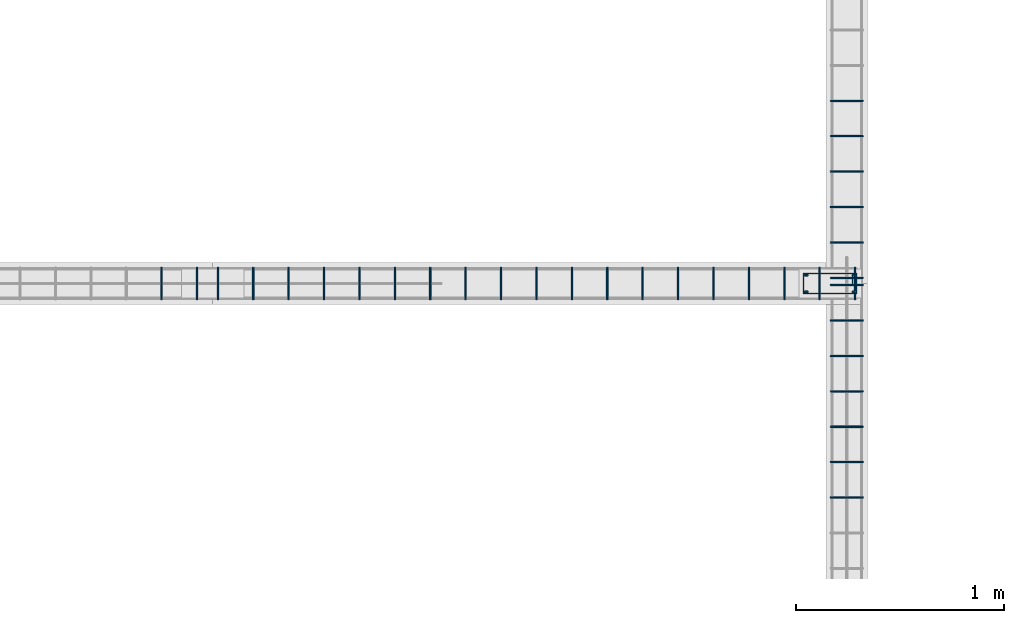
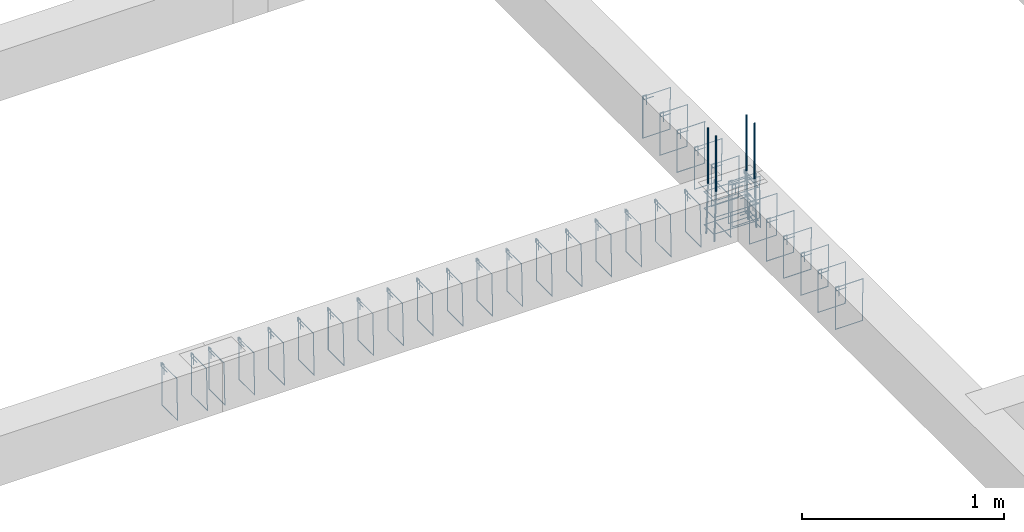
# One storey, part 87 of 150: 41 reinforcing bars.
"""IFC4 building model written with IfcOpenShell, lengths in centimetres."""

from ifc_helpers import new_model, entity, si_unit, derived_unit, frame, origin_with_axes, place, context, project, spatial, source, transform, mapped, element, save


model = new_model("IFC4")

# Units and contexts
model_context = context("Model", 3, precision=1e-05, world=origin_with_axes(), identifier="Body")
ifc_project = project(units=[si_unit("LENGTHUNIT", "METRE", prefix="CENTI"), si_unit("VOLUMEUNIT", "CUBIC_METRE"), si_unit("AREAUNIT", "SQUARE_METRE"), si_unit("POWERUNIT", "WATT"), si_unit("LUMINOUSFLUXUNIT", "LUMEN"), si_unit("ELECTRICCURRENTUNIT", "AMPERE"), si_unit("PRESSUREUNIT", "PASCAL", prefix="KILO"), si_unit("MASSUNIT", "GRAM", prefix="KILO"), si_unit("PLANEANGLEUNIT", "RADIAN"), derived_unit("VOLUMETRICFLOWRATEUNIT", [(si_unit("LENGTHUNIT", "METRE"), 3), (si_unit("TIMEUNIT", "SECOND"), -1)])], contexts=[model_context])

# Site, building, storey
site_placement = place(None, frame((-4000.0, 0.0, 0.0), z_axis=(0.0, 0.0, 1.0), x_axis=(1.0, 0.0, 0.0)))
site = spatial("IfcSite", under=ifc_project, at=site_placement, Name="PADRÃO")
building_placement = place(site_placement, frame((0.0, 0.0, -14.0)))
building = spatial("IfcBuilding", under=site, at=building_placement, Name="CRECHE PRÉ-ESCOLA TIPO 2")
placement = place(building_placement, origin_with_axes())
storey_placement = place(placement, frame((0.0, 0.0, 30.0), z_axis=(0.0, 0.0, 1.0), x_axis=(1.0, 0.0, 0.0)))
storey = spatial("IfcBuildingStorey", under=building, at=storey_placement, Name="VIGA BALDRAME", CompositionType="ELEMENT", Elevation=16.0)

# Reinforcing bars
shared_shape_1 = source(origin_with_axes(), model_context, "Body", "AdvancedSweptSolid", [
    entity("IfcSweptDiskSolid", entity("IfcCompositeCurve", [entity("IfcCompositeCurveSegment", "CONTINUOUS", True, entity("IfcPolyline", [entity("IfcCartesianPoint", [4.25, 21.75, 0.0]), entity("IfcCartesianPoint", [4.25, 27.75, 0.0])])), entity("IfcCompositeCurveSegment", "CONTINUOUS", True, entity("IfcPolyline", [entity("IfcCartesianPoint", [4.25, 27.75, 0.0]), entity("IfcCartesianPoint", [2.25, 27.75, 0.0])])), entity("IfcCompositeCurveSegment", "CONTINUOUS", True, entity("IfcPolyline", [entity("IfcCartesianPoint", [2.25, 27.75, 0.0]), entity("IfcCartesianPoint", [2.25, 2.25, 0.0])])), entity("IfcCompositeCurveSegment", "CONTINUOUS", True, entity("IfcPolyline", [entity("IfcCartesianPoint", [2.25, 2.25, 0.0]), entity("IfcCartesianPoint", [11.75, 2.25, 0.0])])), entity("IfcCompositeCurveSegment", "CONTINUOUS", True, entity("IfcPolyline", [entity("IfcCartesianPoint", [11.75, 2.25, 0.0]), entity("IfcCartesianPoint", [11.75, 27.75, -0.5])])), entity("IfcCompositeCurveSegment", "CONTINUOUS", True, entity("IfcPolyline", [entity("IfcCartesianPoint", [11.75, 27.75, -0.5]), entity("IfcCartesianPoint", [2.25, 27.75, -0.5])])), entity("IfcCompositeCurveSegment", "CONTINUOUS", True, entity("IfcPolyline", [entity("IfcCartesianPoint", [2.25, 27.75, -0.5]), entity("IfcCartesianPoint", [2.25, 25.75, -0.5])])), entity("IfcCompositeCurveSegment", "CONTINUOUS", True, entity("IfcPolyline", [entity("IfcCartesianPoint", [2.25, 25.75, -0.5]), entity("IfcCartesianPoint", [8.25, 25.75, -0.5])]))], False), 0.25),
])
for number, where, z_axis, x_axis, name in (
    (1, (3115.5, 2919.52, -25.0), (0.0, 0.0, 1.0), (0.0, -1.0, 0.0), "P62 - Estribo"),
    (2, (3115.5, 2919.52, -15.0), (0.0, 0.0, 1.0), (0.0, -1.0, 0.0), "P62 - Estribo"),
    (3, (3115.5, 2919.52, -5.0), (0.0, 0.0, 1.0), (0.0, -1.0, 0.0), "P62 - Estribo"),
):
    element("IfcReinforcingBar", number, at=place(storey_placement, frame(where, z_axis=z_axis, x_axis=x_axis)), inside=storey, Name=name, BarLength=0.0, CrossSectionArea=1.9634954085e-05, NominalDiameter=0.5, PredefinedType="MAIN", context=model_context, shape_type="MappedRepresentation", body=[
        mapped(shared_shape_1, transform((0.0, 0.0, 0.0), scale=1.0)),
    ])
shared_shape_2 = source(origin_with_axes(), model_context, "Body", "AdvancedSweptSolid", [
    entity("IfcSweptDiskSolid", entity("IfcCompositeCurve", [entity("IfcCompositeCurveSegment", "CONTINUOUS", True, entity("IfcPolyline", [entity("IfcCartesianPoint", [2.0, -6.0, 0.0]), entity("IfcCartesianPoint", [2.0, 0.0, 0.0])])), entity("IfcCompositeCurveSegment", "CONTINUOUS", True, entity("IfcPolyline", [entity("IfcCartesianPoint", [2.0, 0.0, 0.0]), entity("IfcCartesianPoint", [0.0, 0.0, 0.0])])), entity("IfcCompositeCurveSegment", "CONTINUOUS", True, entity("IfcPolyline", [entity("IfcCartesianPoint", [0.0, 0.0, 0.0]), entity("IfcCartesianPoint", [0.0, -25.5, 0.0])])), entity("IfcCompositeCurveSegment", "CONTINUOUS", True, entity("IfcPolyline", [entity("IfcCartesianPoint", [0.0, -25.5, 0.0]), entity("IfcCartesianPoint", [15.5, -25.5, 0.0])])), entity("IfcCompositeCurveSegment", "CONTINUOUS", True, entity("IfcPolyline", [entity("IfcCartesianPoint", [15.5, -25.5, 0.0]), entity("IfcCartesianPoint", [15.5, 0.0, 0.5])])), entity("IfcCompositeCurveSegment", "CONTINUOUS", True, entity("IfcPolyline", [entity("IfcCartesianPoint", [15.5, 0.0, 0.5]), entity("IfcCartesianPoint", [0.0, 0.0, 0.5])])), entity("IfcCompositeCurveSegment", "CONTINUOUS", True, entity("IfcPolyline", [entity("IfcCartesianPoint", [0.0, 0.0, 0.5]), entity("IfcCartesianPoint", [0.0, -2.0, 0.5])])), entity("IfcCompositeCurveSegment", "CONTINUOUS", True, entity("IfcPolyline", [entity("IfcCartesianPoint", [0.0, -2.0, 0.5]), entity("IfcCartesianPoint", [6.0, -2.0, 0.5])]))], False), 0.25),
])
for number, where, z_axis, x_axis, name in (
    (4, (2809.75, 2920.27, -2.25), (-1.0, 0.0, 0.0), (0.0, -1.0, 0.0), "V116 - Estribo"),
    (5, (2826.75, 2920.27, -2.25), (-1.0, 0.0, 0.0), (0.0, -1.0, 0.0), "V116 - Estribo"),
):
    element("IfcReinforcingBar", number, at=place(storey_placement, frame(where, z_axis=z_axis, x_axis=x_axis)), inside=storey, Name=name, BarLength=0.0, CrossSectionArea=1.9634954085e-05, NominalDiameter=0.5, PredefinedType="MAIN", context=model_context, shape_type="MappedRepresentation", body=[
        mapped(shared_shape_2, transform((0.0, 0.0, 0.0), scale=1.0)),
    ])
shared_shape_3 = source(origin_with_axes(), model_context, "Body", "AdvancedSweptSolid", [
    entity("IfcSweptDiskSolid", entity("IfcCompositeCurve", [entity("IfcCompositeCurveSegment", "CONTINUOUS", True, entity("IfcPolyline", [entity("IfcCartesianPoint", [2.0, -6.0, 0.0]), entity("IfcCartesianPoint", [2.0, 0.0, 0.0])])), entity("IfcCompositeCurveSegment", "CONTINUOUS", True, entity("IfcPolyline", [entity("IfcCartesianPoint", [2.0, 0.0, 0.0]), entity("IfcCartesianPoint", [0.0, 0.0, 0.0])])), entity("IfcCompositeCurveSegment", "CONTINUOUS", True, entity("IfcPolyline", [entity("IfcCartesianPoint", [0.0, 0.0, 0.0]), entity("IfcCartesianPoint", [0.0, -25.5, 0.0])])), entity("IfcCompositeCurveSegment", "CONTINUOUS", True, entity("IfcPolyline", [entity("IfcCartesianPoint", [0.0, -25.5, 0.0]), entity("IfcCartesianPoint", [15.5, -25.5, 0.0])])), entity("IfcCompositeCurveSegment", "CONTINUOUS", True, entity("IfcPolyline", [entity("IfcCartesianPoint", [15.5, -25.5, 0.0]), entity("IfcCartesianPoint", [15.5, 0.0, 0.5])])), entity("IfcCompositeCurveSegment", "CONTINUOUS", True, entity("IfcPolyline", [entity("IfcCartesianPoint", [15.5, 0.0, 0.5]), entity("IfcCartesianPoint", [0.0, 0.0, 0.5])])), entity("IfcCompositeCurveSegment", "CONTINUOUS", True, entity("IfcPolyline", [entity("IfcCartesianPoint", [0.0, 0.0, 0.5]), entity("IfcCartesianPoint", [0.0, -2.0, 0.5])])), entity("IfcCompositeCurveSegment", "CONTINUOUS", True, entity("IfcPolyline", [entity("IfcCartesianPoint", [0.0, -2.0, 0.5]), entity("IfcCartesianPoint", [6.0, -2.0, 0.5])]))], False), 0.25),
])
for number, where, z_axis, x_axis, name in (
    (6, (2836.75, 2920.27, -2.25), (-1.0, 0.0, 0.0), (0.0, -1.0, 0.0), "V116 - Estribo"),
    (7, (2853.75, 2920.27, -2.25), (-1.0, 0.0, 0.0), (0.0, -1.0, 0.0), "V116 - Estribo"),
    (8, (2870.75, 2920.27, -2.25), (-1.0, 0.0, 0.0), (0.0, -1.0, 0.0), "V116 - Estribo"),
    (9, (2887.75, 2920.27, -2.25), (-1.0, 0.0, 0.0), (0.0, -1.0, 0.0), "V116 - Estribo"),
    (10, (2904.75, 2920.27, -2.25), (-1.0, 0.0, 0.0), (0.0, -1.0, 0.0), "V116 - Estribo"),
    (11, (3142.75, 2920.27, -2.25), (-1.0, 0.0, 0.0), (0.0, -1.0, 0.0), "V116 - Estribo"),
    (12, (2921.75, 2920.27, -2.25), (-1.0, 0.0, 0.0), (0.0, -1.0, 0.0), "V116 - Estribo"),
    (13, (2938.75, 2920.27, -2.25), (-1.0, 0.0, 0.0), (0.0, -1.0, 0.0), "V116 - Estribo"),
    (14, (2955.75, 2920.27, -2.25), (-1.0, 0.0, 0.0), (0.0, -1.0, 0.0), "V116 - Estribo"),
    (15, (2972.75, 2920.27, -2.25), (-1.0, 0.0, 0.0), (0.0, -1.0, 0.0), "V116 - Estribo"),
    (16, (2989.75, 2920.27, -2.25), (-1.0, 0.0, 0.0), (0.0, -1.0, 0.0), "V116 - Estribo"),
    (17, (3125.75, 2920.27, -2.25), (-1.0, 0.0, 0.0), (0.0, -1.0, 0.0), "V116 - Estribo"),
    (18, (3108.75, 2920.27, -2.25), (-1.0, 0.0, 0.0), (0.0, -1.0, 0.0), "V116 - Estribo"),
    (19, (3091.75, 2920.27, -2.25), (-1.0, 0.0, 0.0), (0.0, -1.0, 0.0), "V116 - Estribo"),
    (20, (3074.75, 2920.27, -2.25), (-1.0, 0.0, 0.0), (0.0, -1.0, 0.0), "V116 - Estribo"),
    (21, (3057.75, 2920.27, -2.25), (-1.0, 0.0, 0.0), (0.0, -1.0, 0.0), "V116 - Estribo"),
    (22, (3040.75, 2920.27, -2.25), (-1.0, 0.0, 0.0), (0.0, -1.0, 0.0), "V116 - Estribo"),
    (23, (3023.75, 2920.27, -2.25), (-1.0, 0.0, 0.0), (0.0, -1.0, 0.0), "V116 - Estribo"),
    (24, (3006.75, 2920.27, -2.25), (-1.0, 0.0, 0.0), (0.0, -1.0, 0.0), "V116 - Estribo"),
):
    element("IfcReinforcingBar", number, at=place(storey_placement, frame(where, z_axis=z_axis, x_axis=x_axis)), inside=storey, Name=name, BarLength=0.0, CrossSectionArea=1.9634954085e-05, NominalDiameter=0.5, PredefinedType="MAIN", context=model_context, shape_type="MappedRepresentation", body=[
        mapped(shared_shape_3, transform((0.0, 0.0, 0.0), scale=1.0)),
    ])
shared_shape_4 = source(origin_with_axes(), model_context, "Body", "AdvancedSweptSolid", [
    entity("IfcSweptDiskSolid", entity("IfcCompositeCurve", [entity("IfcCompositeCurveSegment", "CONTINUOUS", True, entity("IfcPolyline", [entity("IfcCartesianPoint", [2.0, -6.0, 0.0]), entity("IfcCartesianPoint", [2.0, 0.0, 0.0])])), entity("IfcCompositeCurveSegment", "CONTINUOUS", True, entity("IfcPolyline", [entity("IfcCartesianPoint", [2.0, 0.0, 0.0]), entity("IfcCartesianPoint", [0.0, 0.0, 0.0])])), entity("IfcCompositeCurveSegment", "CONTINUOUS", True, entity("IfcPolyline", [entity("IfcCartesianPoint", [0.0, 0.0, 0.0]), entity("IfcCartesianPoint", [0.0, -25.5, 0.0])])), entity("IfcCompositeCurveSegment", "CONTINUOUS", True, entity("IfcPolyline", [entity("IfcCartesianPoint", [0.0, -25.5, 0.0]), entity("IfcCartesianPoint", [15.5, -25.5, 0.0])])), entity("IfcCompositeCurveSegment", "CONTINUOUS", True, entity("IfcPolyline", [entity("IfcCartesianPoint", [15.5, -25.5, 0.0]), entity("IfcCartesianPoint", [15.5, 0.0, 0.5])])), entity("IfcCompositeCurveSegment", "CONTINUOUS", True, entity("IfcPolyline", [entity("IfcCartesianPoint", [15.5, 0.0, 0.5]), entity("IfcCartesianPoint", [0.0, 0.0, 0.5])])), entity("IfcCompositeCurveSegment", "CONTINUOUS", True, entity("IfcPolyline", [entity("IfcCartesianPoint", [0.0, 0.0, 0.5]), entity("IfcCartesianPoint", [0.0, -2.0, 0.5])])), entity("IfcCompositeCurveSegment", "CONTINUOUS", True, entity("IfcPolyline", [entity("IfcCartesianPoint", [0.0, -2.0, 0.5]), entity("IfcCartesianPoint", [6.0, -2.0, 0.5])]))], False), 0.25),
])
for number, where, z_axis, x_axis, name in (
    (25, (3130.75, 2878.02, -2.25), (0.0, -1.0, 0.0), (1.0, 0.0, 0.0), "V219 - Estribo"),
    (26, (3130.75, 2895.02, -2.25), (0.0, -1.0, 0.0), (1.0, 0.0, 0.0), "V219 - Estribo"),
    (27, (3130.75, 2912.02, -2.25), (0.0, -1.0, 0.0), (1.0, 0.0, 0.0), "V219 - Estribo"),
    (28, (3130.75, 2844.02, -2.25), (0.0, -1.0, 0.0), (1.0, 0.0, 0.0), "V219 - Estribo"),
    (29, (3130.75, 2861.02, -2.25), (0.0, -1.0, 0.0), (1.0, 0.0, 0.0), "V219 - Estribo"),
    (30, (3130.75, 2810.02, -2.25), (0.0, -1.0, 0.0), (1.0, 0.0, 0.0), "V219 - Estribo"),
    (31, (3130.75, 2827.02, -2.25), (0.0, -1.0, 0.0), (1.0, 0.0, 0.0), "V219 - Estribo"),
):
    element("IfcReinforcingBar", number, at=place(storey_placement, frame(where, z_axis=z_axis, x_axis=x_axis)), inside=storey, Name=name, BarLength=0.0, CrossSectionArea=1.9634954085e-05, NominalDiameter=0.5, PredefinedType="MAIN", context=model_context, shape_type="MappedRepresentation", body=[
        mapped(shared_shape_4, transform((0.0, 0.0, 0.0), scale=1.0)),
    ])
shared_shape_5 = source(origin_with_axes(), model_context, "Body", "AdvancedSweptSolid", [
    entity("IfcSweptDiskSolid", entity("IfcCompositeCurve", [entity("IfcCompositeCurveSegment", "CONTINUOUS", True, entity("IfcPolyline", [entity("IfcCartesianPoint", [2.0, -6.0, 0.0]), entity("IfcCartesianPoint", [2.0, 0.0, 0.0])])), entity("IfcCompositeCurveSegment", "CONTINUOUS", True, entity("IfcPolyline", [entity("IfcCartesianPoint", [2.0, 0.0, 0.0]), entity("IfcCartesianPoint", [0.0, 0.0, 0.0])])), entity("IfcCompositeCurveSegment", "CONTINUOUS", True, entity("IfcPolyline", [entity("IfcCartesianPoint", [0.0, 0.0, 0.0]), entity("IfcCartesianPoint", [0.0, -25.5, 0.0])])), entity("IfcCompositeCurveSegment", "CONTINUOUS", True, entity("IfcPolyline", [entity("IfcCartesianPoint", [0.0, -25.5, 0.0]), entity("IfcCartesianPoint", [15.5, -25.5, 0.0])])), entity("IfcCompositeCurveSegment", "CONTINUOUS", True, entity("IfcPolyline", [entity("IfcCartesianPoint", [15.5, -25.5, 0.0]), entity("IfcCartesianPoint", [15.5, 0.0, 0.5])])), entity("IfcCompositeCurveSegment", "CONTINUOUS", True, entity("IfcPolyline", [entity("IfcCartesianPoint", [15.5, 0.0, 0.5]), entity("IfcCartesianPoint", [0.0, 0.0, 0.5])])), entity("IfcCompositeCurveSegment", "CONTINUOUS", True, entity("IfcPolyline", [entity("IfcCartesianPoint", [0.0, 0.0, 0.5]), entity("IfcCartesianPoint", [0.0, -2.0, 0.5])])), entity("IfcCompositeCurveSegment", "CONTINUOUS", True, entity("IfcPolyline", [entity("IfcCartesianPoint", [0.0, -2.0, 0.5]), entity("IfcCartesianPoint", [6.0, -2.0, 0.5])]))], False), 0.25),
])
for number, where, z_axis, x_axis, name in (
    (32, (3130.75, 2932.52, -2.25), (0.0, -1.0, 0.0), (1.0, 0.0, 0.0), "V219 - Estribo"),
    (33, (3130.75, 2966.52, -2.25), (0.0, -1.0, 0.0), (1.0, 0.0, 0.0), "V219 - Estribo"),
    (34, (3130.75, 2983.52, -2.25), (0.0, -1.0, 0.0), (1.0, 0.0, 0.0), "V219 - Estribo"),
    (35, (3130.75, 3000.52, -2.25), (0.0, -1.0, 0.0), (1.0, 0.0, 0.0), "V219 - Estribo"),
    (36, (3130.75, 2915.52, -2.25), (0.0, -1.0, 0.0), (1.0, 0.0, 0.0), "V219 - Estribo"),
    (37, (3130.75, 2949.52, -2.25), (0.0, -1.0, 0.0), (1.0, 0.0, 0.0), "V219 - Estribo"),
):
    element("IfcReinforcingBar", number, at=place(storey_placement, frame(where, z_axis=z_axis, x_axis=x_axis)), inside=storey, Name=name, BarLength=0.0, CrossSectionArea=1.9634954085e-05, NominalDiameter=0.5, PredefinedType="MAIN", context=model_context, shape_type="MappedRepresentation", body=[
        mapped(shared_shape_5, transform((0.0, 0.0, 0.0), scale=1.0)),
    ])
reinforcing_bar_1_placement = place(storey_placement, frame((3119.00013877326, 2916.52, 33.3573001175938), z_axis=(0.0, 0.0, 1.0), x_axis=(1.0, 0.0, 0.0)))
element("IfcReinforcingBar", 38, at=reinforcing_bar_1_placement, inside=storey, Name="P62 - Longitudinal", BarLength=0.0, CrossSectionArea=7.853981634e-05, NominalDiameter=1.0, PredefinedType="MAIN", context=model_context, shape_type="AdvancedSweptSolid", body=[
    entity("IfcSweptDiskSolid", entity("IfcCompositeCurve", [entity("IfcCompositeCurveSegment", "CONTINUOUS", True, entity("IfcPolyline", [entity("IfcCartesianPoint", [-0.500138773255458, 0.0, -63.3573001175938]), entity("IfcCartesianPoint", [0.499861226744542, 0.0, -33.3573001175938])])), entity("IfcCompositeCurveSegment", "CONTINUOUS", True, entity("IfcPolyline", [entity("IfcCartesianPoint", [0.499861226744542, 0.0, -33.3573001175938]), entity("IfcCartesianPoint", [0.499861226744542, 0.0, 0.0])]))], False), 0.5),
])
for number, where, z_axis, x_axis, name in (
    (39, (3141.99986122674, 2916.52, 33.3573001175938), (0.0, 0.0, 1.0), (1.0, 0.0, 0.0), "P62 - Longitudinal"),
    (40, (3141.99986122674, 2908.52, 33.3573001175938), (0.0, 0.0, 1.0), (1.0, 0.0, 0.0), "P62 - Longitudinal"),
):
    element("IfcReinforcingBar", number, at=place(storey_placement, frame(where, z_axis=z_axis, x_axis=x_axis)), inside=storey, Name=name, BarLength=0.0, CrossSectionArea=7.853981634e-05, NominalDiameter=1.0, PredefinedType="MAIN", context=model_context, shape_type="AdvancedSweptSolid", body=[
        entity("IfcSweptDiskSolid", entity("IfcCompositeCurve", [entity("IfcCompositeCurveSegment", "CONTINUOUS", True, entity("IfcPolyline", [entity("IfcCartesianPoint", [0.500138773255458, 0.0, -63.3573001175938]), entity("IfcCartesianPoint", [-0.499861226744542, 0.0, -33.3573001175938])])), entity("IfcCompositeCurveSegment", "CONTINUOUS", True, entity("IfcPolyline", [entity("IfcCartesianPoint", [-0.499861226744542, 0.0, -33.3573001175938]), entity("IfcCartesianPoint", [-0.499861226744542, 0.0, 0.0])]))], False), 0.5),
    ])
reinforcing_bar_2_placement = place(storey_placement, frame((3119.00013877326, 2908.52, 33.3573001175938), z_axis=(0.0, 0.0, 1.0), x_axis=(1.0, 0.0, 0.0)))
element("IfcReinforcingBar", 41, at=reinforcing_bar_2_placement, inside=storey, Name="P62 - Longitudinal", BarLength=0.0, CrossSectionArea=7.853981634e-05, NominalDiameter=1.0, PredefinedType="MAIN", context=model_context, shape_type="AdvancedSweptSolid", body=[
    entity("IfcSweptDiskSolid", entity("IfcCompositeCurve", [entity("IfcCompositeCurveSegment", "CONTINUOUS", True, entity("IfcPolyline", [entity("IfcCartesianPoint", [-0.500138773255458, 0.0, -63.3573001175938]), entity("IfcCartesianPoint", [0.499861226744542, 0.0, -33.3573001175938])])), entity("IfcCompositeCurveSegment", "CONTINUOUS", True, entity("IfcPolyline", [entity("IfcCartesianPoint", [0.499861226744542, 0.0, -33.3573001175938]), entity("IfcCartesianPoint", [0.499861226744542, 0.0, 0.0])]))], False), 0.5),
])

save(model, "model.ifc")
